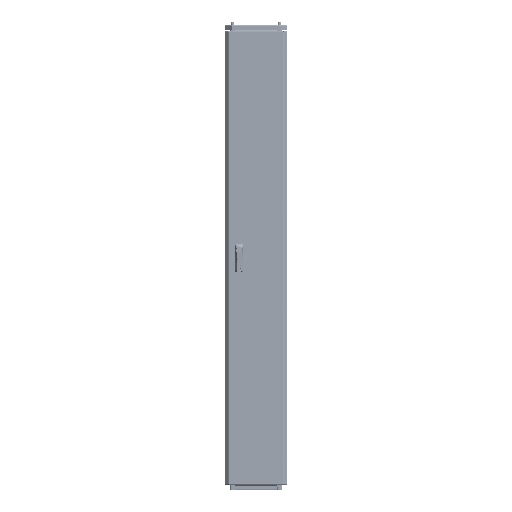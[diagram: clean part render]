
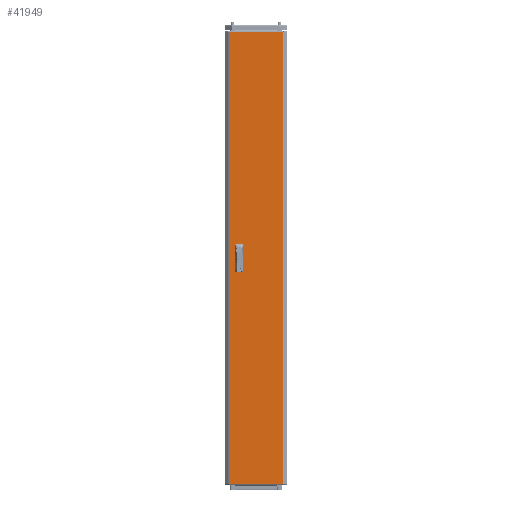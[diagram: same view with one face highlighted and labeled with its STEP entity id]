
A CAD part, top view. The second image highlights one B-rep face of the part: STEP entity #41949.
In plain terms, the highlighted planar face has unit normal (0, 0, 1).
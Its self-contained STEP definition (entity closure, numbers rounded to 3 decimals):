
#1365 = PLANE ( 'NONE',  #47467 ) ;
#2014 = VERTEX_POINT ( 'NONE', #52423 ) ;
#6291 = VECTOR ( 'NONE', #147600, 1000. ) ;
#15025 = VERTEX_POINT ( 'NONE', #103398 ) ;
#16765 = CARTESIAN_POINT ( 'NONE',  ( -92.5, -62.5, 0. ) ) ;
#17510 = FACE_BOUND ( 'NONE', #146118, .T. ) ;
#17949 = EDGE_CURVE ( 'NONE', #121568, #64457, #237657, .T. ) ;
#18520 = VECTOR ( 'NONE', #138755, 1000. ) ;
#22657 = VECTOR ( 'NONE', #208401, 1000. ) ;
#22822 = DIRECTION ( 'NONE',  ( 0., -1., 0. ) ) ;
#23583 = VERTEX_POINT ( 'NONE', #52301 ) ;
#26933 = VERTEX_POINT ( 'NONE', #138985 ) ;
#27327 = CARTESIAN_POINT ( 'NONE',  ( -127.875, 1069.5, 0. ) ) ;
#27699 = CARTESIAN_POINT ( 'NONE',  ( -67.5, -12.5, 0. ) ) ;
#29385 = LINE ( 'NONE', #200109, #72373 ) ;
#37104 = LINE ( 'NONE', #131106, #69579 ) ;
#41564 = ORIENTED_EDGE ( 'NONE', *, *, #73948, .T. ) ;
#41949 = ADVANCED_FACE ( 'NONE', ( #17510, #91760, #209276 ), #1365, .F. ) ;
#46080 = VERTEX_POINT ( 'NONE', #209915 ) ;
#46582 = EDGE_CURVE ( 'NONE', #26933, #46080, #227024, .T. ) ;
#47467 = AXIS2_PLACEMENT_3D ( 'NONE', #149861, #151071, #190650 ) ;
#48264 = LINE ( 'NONE', #126227, #49490 ) ;
#49172 = EDGE_LOOP ( 'NONE', ( #195965, #201962, #121606, #157361 ) ) ;
#49490 = VECTOR ( 'NONE', #201696, 1000. ) ;
#52301 = CARTESIAN_POINT ( 'NONE',  ( -67.5, -62.5, 0. ) ) ;
#52423 = CARTESIAN_POINT ( 'NONE',  ( -92.5, 62.5, 0. ) ) ;
#61316 = VERTEX_POINT ( 'NONE', #212750 ) ;
#63283 = DIRECTION ( 'NONE',  ( 0., 1., 0. ) ) ;
#64457 = VERTEX_POINT ( 'NONE', #81494 ) ;
#68237 = VERTEX_POINT ( 'NONE', #188209 ) ;
#69579 = VECTOR ( 'NONE', #225207, 1000. ) ;
#70951 = LINE ( 'NONE', #146385, #6291 ) ;
#72373 = VECTOR ( 'NONE', #160480, 1000. ) ;
#73948 = EDGE_CURVE ( 'NONE', #68237, #158255, #29385, .T. ) ;
#77312 = CARTESIAN_POINT ( 'NONE',  ( -92.5, -62.5, 0. ) ) ;
#81494 = CARTESIAN_POINT ( 'NONE',  ( -67.5, 62.5, 0. ) ) ;
#87014 = DIRECTION ( 'NONE',  ( 1., 0., 0. ) ) ;
#88849 = VECTOR ( 'NONE', #63283, 1000. ) ;
#91318 = EDGE_CURVE ( 'NONE', #61316, #121568, #37104, .T. ) ;
#91760 = FACE_BOUND ( 'NONE', #49172, .T. ) ;
#94091 = VECTOR ( 'NONE', #87014, 1000. ) ;
#103398 = CARTESIAN_POINT ( 'NONE',  ( -92.5, -12.5, 0. ) ) ;
#105556 = EDGE_CURVE ( 'NONE', #46080, #68237, #177017, .T. ) ;
#112741 = LINE ( 'NONE', #167201, #120239 ) ;
#113236 = VECTOR ( 'NONE', #22822, 1000. ) ;
#113240 = DIRECTION ( 'NONE',  ( 0., -1., 0. ) ) ;
#115556 = CARTESIAN_POINT ( 'NONE',  ( 127.875, -1069.5, 0. ) ) ;
#116217 = ORIENTED_EDGE ( 'NONE', *, *, #137494, .F. ) ;
#117795 = CARTESIAN_POINT ( 'NONE',  ( -127.875, -1069.5, 0. ) ) ;
#120239 = VECTOR ( 'NONE', #242707, 1000. ) ;
#120528 = CARTESIAN_POINT ( 'NONE',  ( -92.5, -62.5, 0. ) ) ;
#121568 = VERTEX_POINT ( 'NONE', #211587 ) ;
#121606 = ORIENTED_EDGE ( 'NONE', *, *, #162824, .F. ) ;
#126227 = CARTESIAN_POINT ( 'NONE',  ( -92.5, 62.5, 0. ) ) ;
#131106 = CARTESIAN_POINT ( 'NONE',  ( -92.5, 12.5, 0. ) ) ;
#134695 = EDGE_LOOP ( 'NONE', ( #200923, #221310, #41564, #209993 ) ) ;
#135441 = LINE ( 'NONE', #210972, #168055 ) ;
#137494 = EDGE_CURVE ( 'NONE', #2014, #61316, #135441, .T. ) ;
#137509 = CARTESIAN_POINT ( 'NONE',  ( -67.5, -62.5, 0. ) ) ;
#138755 = DIRECTION ( 'NONE',  ( 0., 1., 0. ) ) ;
#138985 = CARTESIAN_POINT ( 'NONE',  ( 127.875, -1069.5, 0. ) ) ;
#146118 = EDGE_LOOP ( 'NONE', ( #196692, #203579, #155072, #116217 ) ) ;
#146385 = CARTESIAN_POINT ( 'NONE',  ( -127.875, -1069.5, 0. ) ) ;
#147600 = DIRECTION ( 'NONE',  ( 1., 0., 0. ) ) ;
#149861 = CARTESIAN_POINT ( 'NONE',  ( 0., 0., 0. ) ) ;
#150223 = EDGE_CURVE ( 'NONE', #15025, #185094, #221324, .T. ) ;
#151071 = DIRECTION ( 'NONE',  ( 0., 0., -1. ) ) ;
#155072 = ORIENTED_EDGE ( 'NONE', *, *, #91318, .F. ) ;
#155482 = VECTOR ( 'NONE', #215470, 1000. ) ;
#156892 = EDGE_CURVE ( 'NONE', #23583, #183369, #199305, .T. ) ;
#157361 = ORIENTED_EDGE ( 'NONE', *, *, #150223, .F. ) ;
#158255 = VERTEX_POINT ( 'NONE', #117795 ) ;
#160480 = DIRECTION ( 'NONE',  ( 0., -1., 0. ) ) ;
#162824 = EDGE_CURVE ( 'NONE', #185094, #23583, #215816, .T. ) ;
#167201 = CARTESIAN_POINT ( 'NONE',  ( -92.5, -12.5, 0. ) ) ;
#168055 = VECTOR ( 'NONE', #113240, 1000. ) ;
#169019 = EDGE_CURVE ( 'NONE', #158255, #26933, #70951, .T. ) ;
#177017 = LINE ( 'NONE', #27327, #155482 ) ;
#183369 = VERTEX_POINT ( 'NONE', #27699 ) ;
#185094 = VERTEX_POINT ( 'NONE', #16765 ) ;
#188209 = CARTESIAN_POINT ( 'NONE',  ( -127.875, 1069.5, 0. ) ) ;
#190650 = DIRECTION ( 'NONE',  ( -1., 0., 0. ) ) ;
#195965 = ORIENTED_EDGE ( 'NONE', *, *, #216595, .F. ) ;
#196692 = ORIENTED_EDGE ( 'NONE', *, *, #242418, .F. ) ;
#199305 = LINE ( 'NONE', #137509, #88849 ) ;
#200109 = CARTESIAN_POINT ( 'NONE',  ( -127.875, -1069.5, 0. ) ) ;
#200923 = ORIENTED_EDGE ( 'NONE', *, *, #46582, .T. ) ;
#201696 = DIRECTION ( 'NONE',  ( -1., 0., 0. ) ) ;
#201962 = ORIENTED_EDGE ( 'NONE', *, *, #156892, .F. ) ;
#203579 = ORIENTED_EDGE ( 'NONE', *, *, #17949, .F. ) ;
#208401 = DIRECTION ( 'NONE',  ( 0., 1., 0. ) ) ;
#209276 = FACE_OUTER_BOUND ( 'NONE', #134695, .T. ) ;
#209915 = CARTESIAN_POINT ( 'NONE',  ( 127.875, 1069.5, 0. ) ) ;
#209993 = ORIENTED_EDGE ( 'NONE', *, *, #169019, .T. ) ;
#210972 = CARTESIAN_POINT ( 'NONE',  ( -92.5, 12.5, 0. ) ) ;
#211587 = CARTESIAN_POINT ( 'NONE',  ( -67.5, 12.5, 0. ) ) ;
#212750 = CARTESIAN_POINT ( 'NONE',  ( -92.5, 12.5, 0. ) ) ;
#214293 = CARTESIAN_POINT ( 'NONE',  ( -67.5, 12.5, 0. ) ) ;
#215470 = DIRECTION ( 'NONE',  ( -1., 0., 0. ) ) ;
#215816 = LINE ( 'NONE', #120528, #94091 ) ;
#216595 = EDGE_CURVE ( 'NONE', #183369, #15025, #112741, .T. ) ;
#221310 = ORIENTED_EDGE ( 'NONE', *, *, #105556, .T. ) ;
#221324 = LINE ( 'NONE', #77312, #113236 ) ;
#225207 = DIRECTION ( 'NONE',  ( 1., 0., 0. ) ) ;
#227024 = LINE ( 'NONE', #115556, #22657 ) ;
#237657 = LINE ( 'NONE', #214293, #18520 ) ;
#242418 = EDGE_CURVE ( 'NONE', #64457, #2014, #48264, .T. ) ;
#242707 = DIRECTION ( 'NONE',  ( -1., 0., 0. ) ) ;
